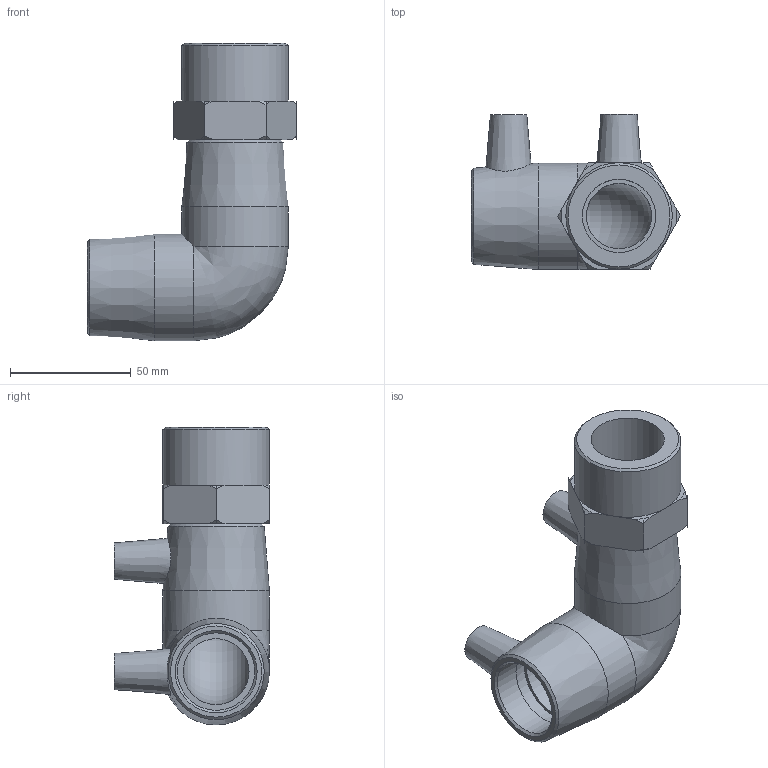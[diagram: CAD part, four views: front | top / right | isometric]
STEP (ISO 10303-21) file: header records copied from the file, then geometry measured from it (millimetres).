
FILE_DESCRIPTION(/* description */ ('PLASSON 90° ELBOW FEMALE TRANSITION 32 x 1'''''),/* implementation_level */ '2;1');
FILE_NAME(/* name */ 'C:\Dropbox\KIMPROJECTS-Inventor\99-16-3568-Processing\ElectroFusion Fittings\02.02.20\493504\493504032010N.ipt.stp',/* time_stamp */ '2020-02-02T12:34:22+02:00',/* author */ ('KIM'),/* organization */ (''),/* preprocessor_version */ 'ST-DEVELOPER v15.6',/* originating_system */ 'Autodesk Inventor 2015',/* authorisation */ '');
FILE_SCHEMA (('AUTOMOTIVE_DESIGN { 1 0 10303 214 3 1 1 }'));
Length unit declared in the file: millimetre
Products named in the file (1): 493504032010N
Bounding box: 86.4 x 64.06 x 123 mm (x, y, z)
Volume: 133102.4 mm3; surface area: 42936.8 mm2
Topology: 1 solids, 2 shells, 76 faces, 206 edges, 141 vertices
Faces by surface type: plane 27, cylinder 25, cone 22, bspline 1, torus 1
Full cylindrical faces by diameter (mm): 4 x2, 10 x2, 27 x1, 30.291 x1, 32 x4, 44 x3
Entity records: 2375 total; most frequent: CARTESIAN_POINT 512, DIRECTION 384, ORIENTED_EDGE 332, AXIS2_PLACEMENT_3D 168, EDGE_CURVE 166, VERTEX_POINT 129, EDGE_LOOP 115, CIRCLE 91
